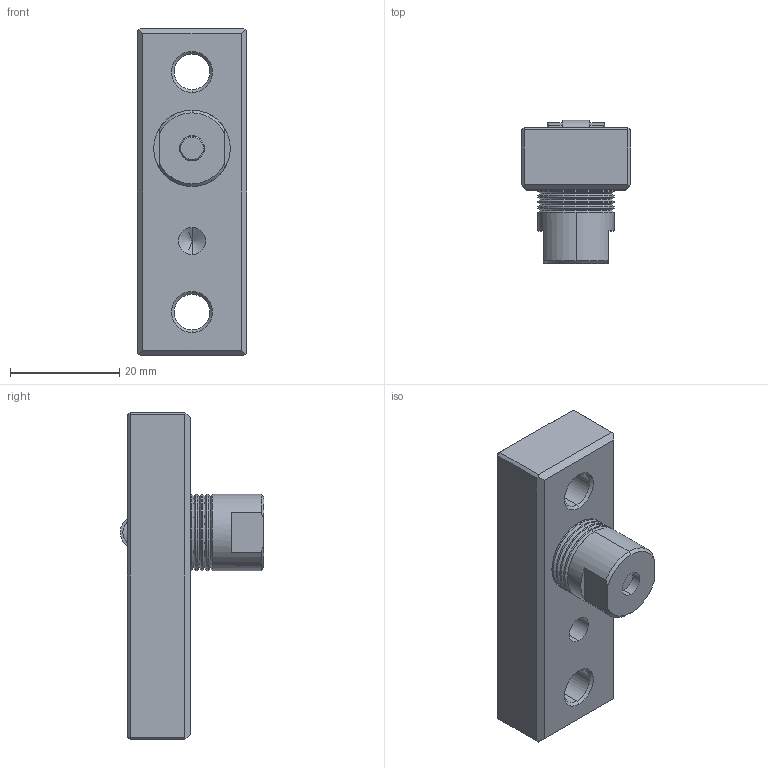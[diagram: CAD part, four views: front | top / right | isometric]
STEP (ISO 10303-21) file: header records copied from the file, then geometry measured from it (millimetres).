
FILE_DESCRIPTION (( 'STEP AP203' ), '1' );
FILE_NAME ('PRI2060.STEP', '2010-06-15T08:43:10', ( ' ' ), ( ' ' ), 'SwSTEP 2.0', 'SolidWorks 2005204', '' );
FILE_SCHEMA (( 'CONFIG_CONTROL_DESIGN' ));
Length unit declared in the file: millimetre
Products named in the file (7): PERNO RULLINO6; CORPO RITENSORE6; PRI2060; RITENSORE 20; SPINA 3X9_Parallel Pin ISO 8734 - 4 x 18 - A - St; RULLINO6
Assembly tree (6 placements, depth 3):
  PRI2060
    RITENSORE 20
      CORPO RITENSORE6
      RULLINO6
      SPINA 3X9_Parallel Pin ISO 8734 - 4 x 18 - A - St
      PERNO RULLINO6
    PRI2060
Bounding box: 20 x 26.3 x 60 mm (x, y, z)
Volume: 13322.2 mm3; surface area: 7640.2 mm2
Topology: 5 solids, 5 shells, 170 faces, 381 edges, 226 vertices
Faces by surface type: cylinder 65, cone 55, plane 48, torus 2
Entity records: 5587 total; most frequent: CARTESIAN_POINT 967, DIRECTION 886, ORIENTED_EDGE 758, EDGE_CURVE 379, AXIS2_PLACEMENT_3D 345, VERTEX_POINT 226, VECTOR 196, LINE 196
